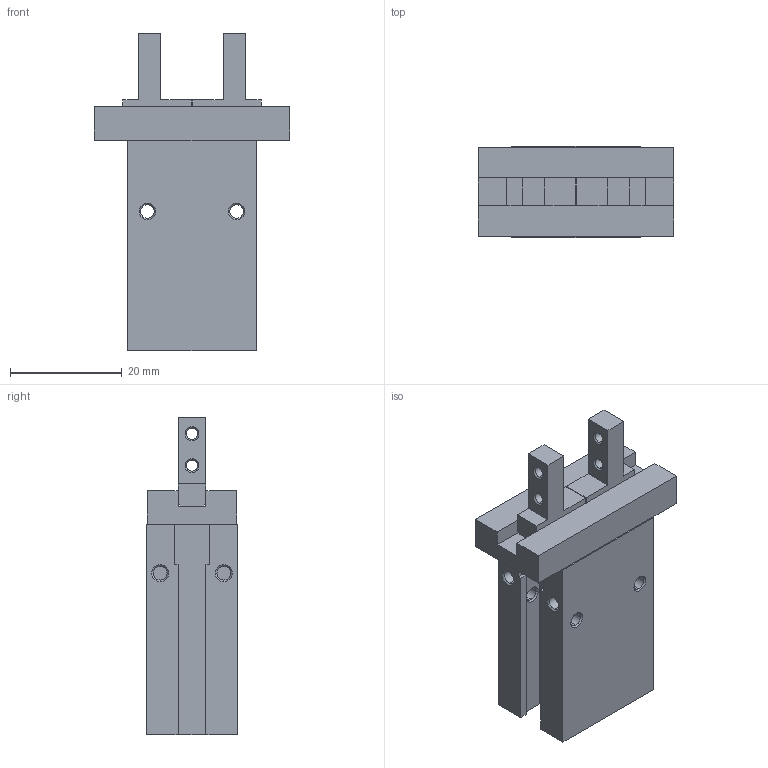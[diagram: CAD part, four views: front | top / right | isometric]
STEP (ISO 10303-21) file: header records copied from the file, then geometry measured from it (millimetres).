
FILE_DESCRIPTION (( 'STEP AP203' ), '1' );
FILE_NAME ('GMHZL2-10D.STEP', '2024-07-24T07:32:38', ( '微软用户' ), ( '微软中国' ), 'SwSTEP 2.0', 'SolidWorks 2018', '' );
FILE_SCHEMA (( 'CONFIG_CONTROL_DESIGN' ));
Length unit declared in the file: millimetre
Products named in the file (3): _MHZL2-10D_Body(0); _MHZL2-10D_Finger(0); GMHZL2-10D
Assembly tree (3 placements, depth 2):
  GMHZL2-10D
    _MHZL2-10D_Body(0)
    _MHZL2-10D_Finger(0)  x2
Bounding box: 35 x 16.4 x 57 mm (x, y, z)
Volume: 15114.1 mm3; surface area: 7361 mm2
Topology: 3 solids, 3 shells, 172 faces, 420 edges, 264 vertices
Faces by surface type: plane 96, cone 44, cylinder 32
Entity records: 4505 total; most frequent: DIRECTION 744, CARTESIAN_POINT 716, ORIENTED_EDGE 696, EDGE_CURVE 348, LINE 248, AXIS2_PLACEMENT_3D 248, VECTOR 248, VERTEX_POINT 220
